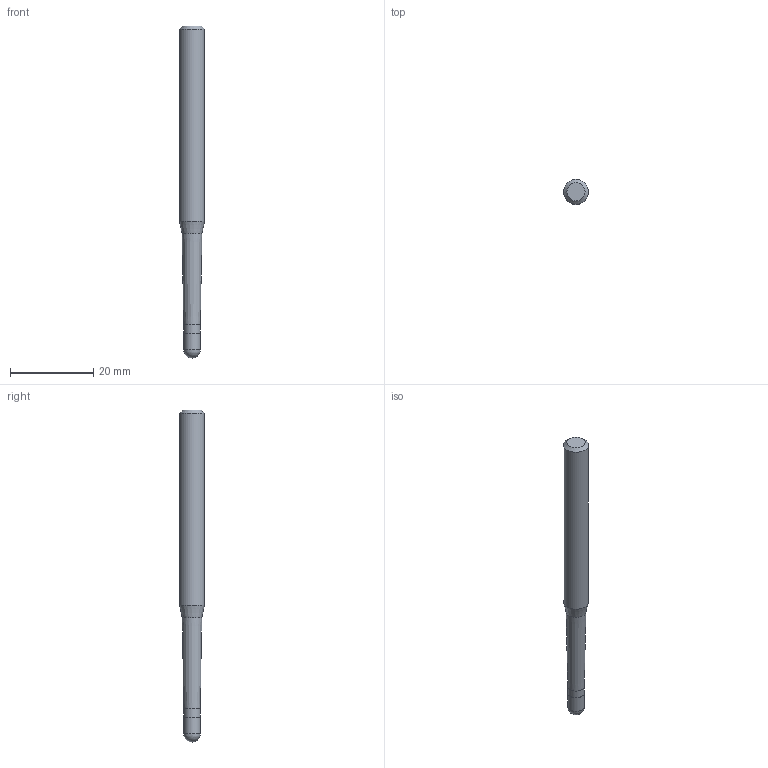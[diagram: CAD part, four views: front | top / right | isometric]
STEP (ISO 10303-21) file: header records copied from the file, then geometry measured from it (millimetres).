
FILE_DESCRIPTION((''),'2;1');
FILE_NAME('C:\Users\nsx150\AppData\Local\Temp\Mastercam 2021\E0ENTZRV18\TEMP.step','2021-09-02T09:57:32',(''),(''),'STEP Write','Mastercam 2021 ... CNC Software, Inc.','');
FILE_SCHEMA(('AUTOMOTIVE_DESIGN'));
Length unit declared in the file: millimetre
Products named in the file (1): None
Bounding box: 6 x 6 x 80 mm (x, y, z)
Volume: 1816.1 mm3; surface area: 1384.4 mm2
Topology: 2 solids, 2 shells, 10 faces, 16 edges, 9 vertices
Faces by surface type: plane 3, cylinder 3, cone 3, sphere 1
Full cylindrical faces by diameter (mm): 3.98 x1, 4 x1, 6 x1
Entity records: 232 total; most frequent: DIRECTION 40, CARTESIAN_POINT 28, AXIS2_PLACEMENT_3D 20, ORIENTED_EDGE 16, EDGE_LOOP 16, STYLED_ITEM 13, ADVANCED_FACE 10, FACE_BOUND 9
